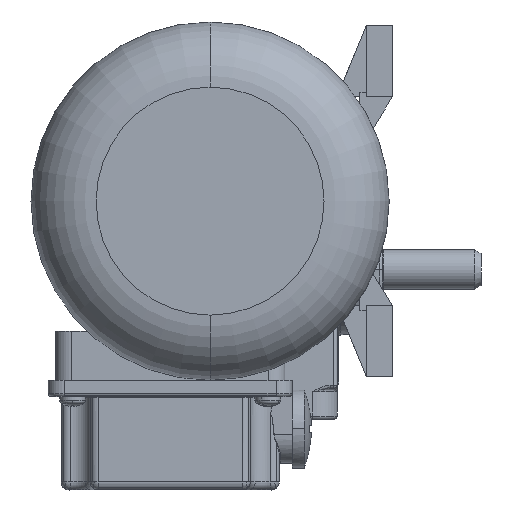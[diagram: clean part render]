
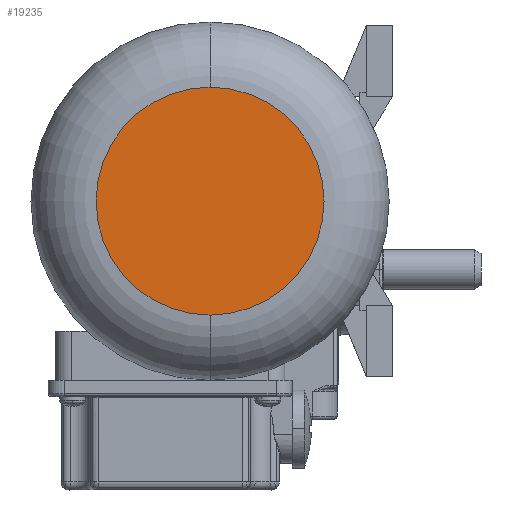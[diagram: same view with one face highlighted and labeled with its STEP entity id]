
A CAD part, left-side view. The second image highlights one B-rep face of the part: STEP entity #19235.
In plain terms, the highlighted planar face has unit normal (-1, 0, 0).
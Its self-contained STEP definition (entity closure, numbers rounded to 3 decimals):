
#3587 = EDGE_LOOP ( 'NONE', ( #10812, #9962 ) ) ;
#4801 = DIRECTION ( 'NONE',  ( -1., 0., 0. ) ) ;
#4861 = CARTESIAN_POINT ( 'NONE',  ( 0., 0., -35. ) ) ;
#6857 = DIRECTION ( 'NONE',  ( 0., 0., -1. ) ) ;
#8262 = AXIS2_PLACEMENT_3D ( 'NONE', #27584, #4801, #23575 ) ;
#9962 = ORIENTED_EDGE ( 'NONE', *, *, #18196, .T. ) ;
#10095 = VERTEX_POINT ( 'NONE', #4861 ) ;
#10812 = ORIENTED_EDGE ( 'NONE', *, *, #20663, .T. ) ;
#13140 = PLANE ( 'NONE',  #28128 ) ;
#14413 = CIRCLE ( 'NONE', #18360, 35. ) ;
#14630 = CIRCLE ( 'NONE', #8262, 35. ) ;
#15922 = CARTESIAN_POINT ( 'NONE',  ( 0., 0., 0. ) ) ;
#15973 = CARTESIAN_POINT ( 'NONE',  ( 0., 0., 0. ) ) ;
#18196 = EDGE_CURVE ( 'NONE', #26867, #10095, #14630, .T. ) ;
#18360 = AXIS2_PLACEMENT_3D ( 'NONE', #15973, #22612, #25233 ) ;
#18540 = FACE_OUTER_BOUND ( 'NONE', #3587, .T. ) ;
#19235 = ADVANCED_FACE ( 'NONE', ( #18540 ), #13140, .F. ) ;
#20663 = EDGE_CURVE ( 'NONE', #10095, #26867, #14413, .T. ) ;
#22612 = DIRECTION ( 'NONE',  ( -1., 0., 0. ) ) ;
#23575 = DIRECTION ( 'NONE',  ( 0., 0., -1. ) ) ;
#25233 = DIRECTION ( 'NONE',  ( 0., 0., -1. ) ) ;
#26867 = VERTEX_POINT ( 'NONE', #28775 ) ;
#27494 = DIRECTION ( 'NONE',  ( 1., 0., 0. ) ) ;
#27584 = CARTESIAN_POINT ( 'NONE',  ( 0., 0., 0. ) ) ;
#28128 = AXIS2_PLACEMENT_3D ( 'NONE', #15922, #27494, #6857 ) ;
#28775 = CARTESIAN_POINT ( 'NONE',  ( 0., 0., 35. ) ) ;
